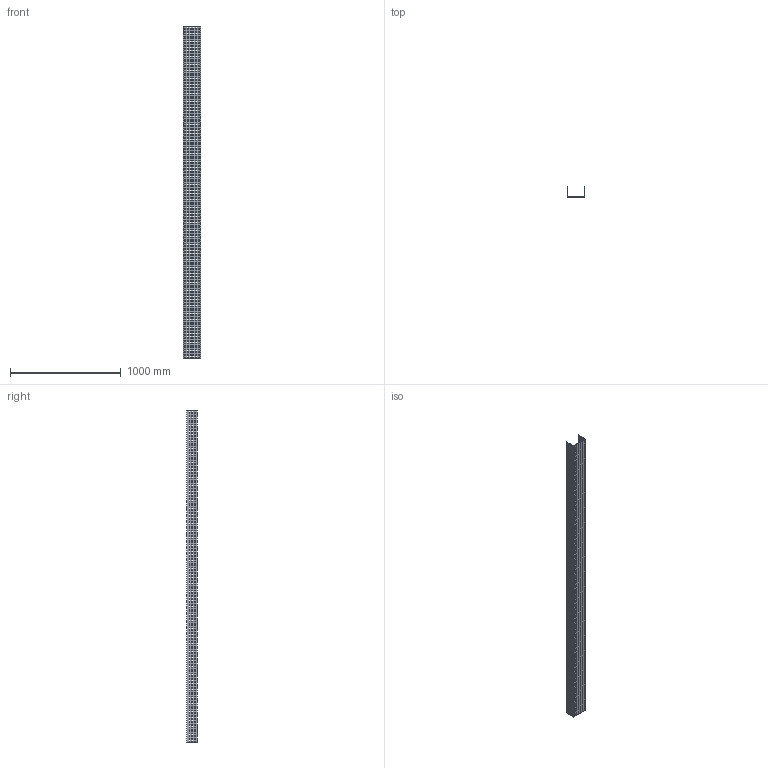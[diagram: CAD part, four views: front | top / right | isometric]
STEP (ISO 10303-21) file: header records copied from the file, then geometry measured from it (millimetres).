
FILE_DESCRIPTION (( 'STEP AP214' ), '1' );
FILE_NAME ('01B3I150.step', '2025-02-21T10:23:24', ( '' ), ( '' ), 'SwSTEP 2.0', 'SolidWorks 2023', '' );
FILE_SCHEMA (( 'AUTOMOTIVE_DESIGN' ));
Length unit declared in the file: millimetre
Products named in the file (1): 01B3I150
Bounding box: 154 x 92.5 x 3000 mm (x, y, z)
Volume: 2956800 mm3; surface area: 1906460 mm2
Topology: 1 solids, 1 shells, 3466 faces, 10392 edges, 6928 vertices
Faces by surface type: plane 3466
Entity records: 117815 total; most frequent: CARTESIAN_POINT 20787, ORIENTED_EDGE 20784, DIRECTION 17326, EDGE_CURVE 10392, LINE 10392, VECTOR 10392, VERTEX_POINT 6928, EDGE_LOOP 5194
